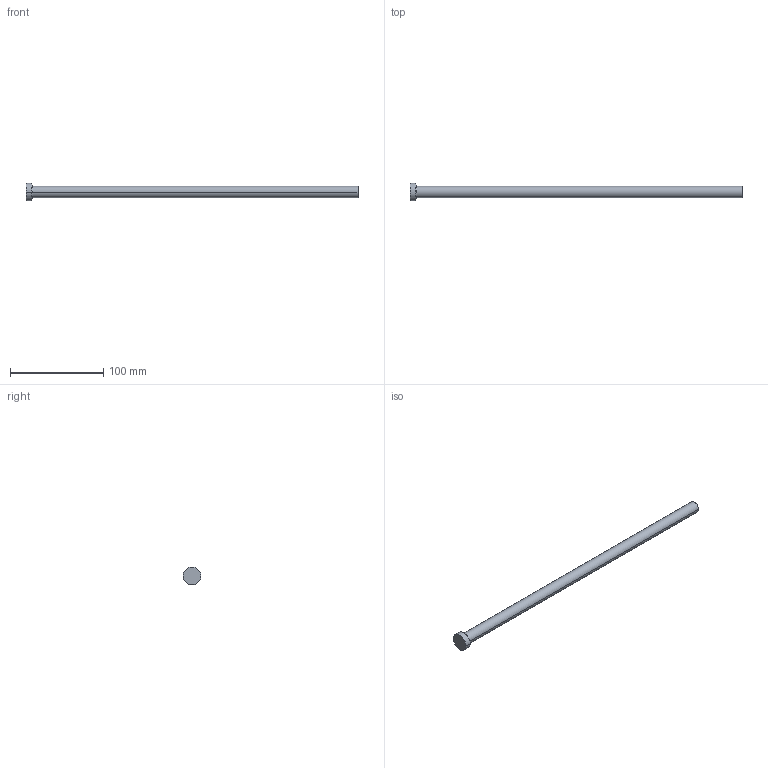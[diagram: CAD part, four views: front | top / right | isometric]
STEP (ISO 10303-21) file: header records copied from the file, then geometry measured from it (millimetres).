
FILE_DESCRIPTION (( 'STEP AP214' ), '1' );
FILE_NAME ('P32-14.STEP', '2020-03-12T10:40:05', ( '' ), ( '' ), 'SwSTEP 2.0', 'SolidWorks 2018', '' );
FILE_SCHEMA (( 'AUTOMOTIVE_DESIGN' ));
Length unit declared in the file: inch
Products named in the file (1): P32-14
Bounding box: 355.6 x 19.05 x 19.05 mm (x, y, z)
Volume: 43282.8 mm3; surface area: 14421.2 mm2
Topology: 1 solids, 1 shells, 13 faces, 24 edges, 14 vertices
Faces by surface type: cone 4, cylinder 4, plane 3, torus 2
Entity records: 366 total; most frequent: DIRECTION 68, CARTESIAN_POINT 52, ORIENTED_EDGE 48, AXIS2_PLACEMENT_3D 30, EDGE_CURVE 24, CIRCLE 16, EDGE_LOOP 14, VERTEX_POINT 14
